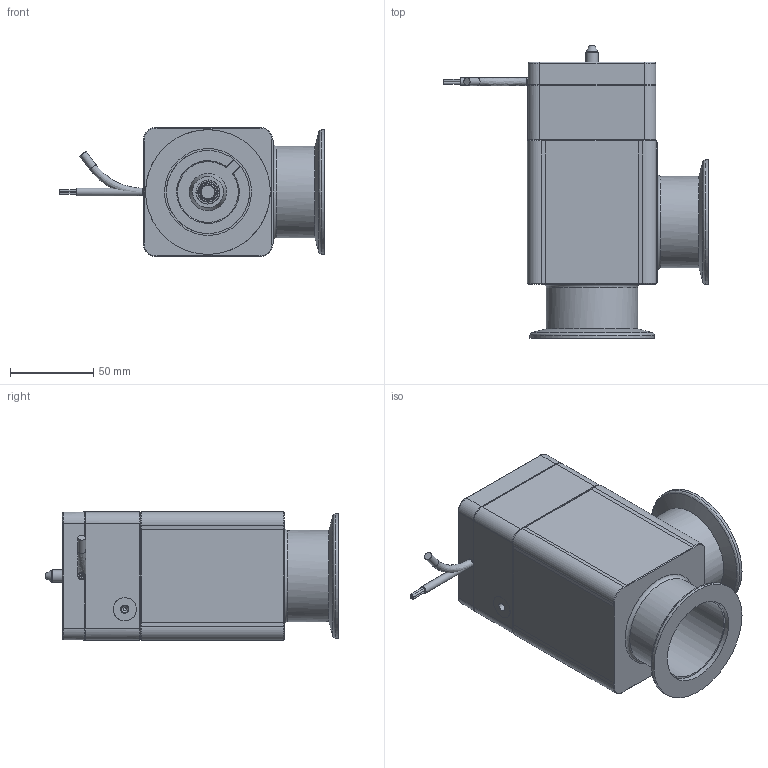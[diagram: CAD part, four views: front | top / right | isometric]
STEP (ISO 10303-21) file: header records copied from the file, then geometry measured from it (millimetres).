
FILE_DESCRIPTION((''),'2;1');
FILE_NAME('C:\TEMP\IDEAS\258364.stp','2006-09-19T16:23:35',('User'),( 'SDRC'),'I-DEAS Master Series 9','UNIX','Yes');
FILE_SCHEMA(('CONFIG_CONTROL_DESIGN'));
Length unit declared in the file: millimetre
Assembly tree (15 placements, depth 0):
Bounding box: 159.2 x 176 x 77.59 mm (x, y, z)
Volume: 307696.5 mm3; surface area: 158850.1 mm2
Topology: 21 solids, 22 shells, 689 faces, 1645 edges, 1067 vertices
Faces by surface type: bspline 689
Entity records: 20253 total; most frequent: CARTESIAN_POINT 10350, ORIENTED_EDGE 2760, EDGE_CURVE 1380, VERTEX_POINT 880, EDGE_LOOP 679, FACE_OUTER_BOUND 579, ADVANCED_FACE 579, B_SPLINE_CURVE_WITH_KNOTS 502
